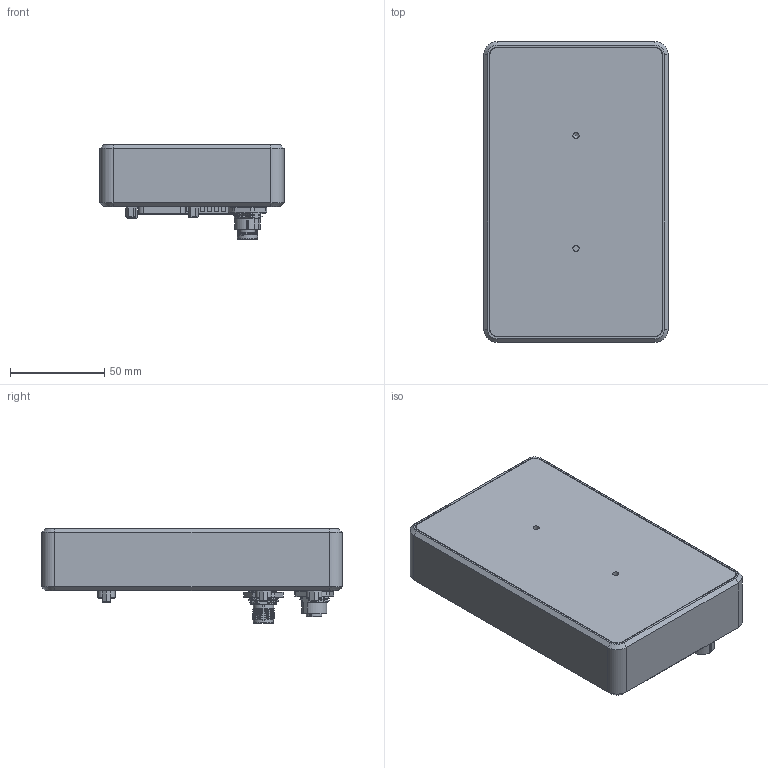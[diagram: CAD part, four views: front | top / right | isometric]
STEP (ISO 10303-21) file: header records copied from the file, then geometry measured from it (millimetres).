
FILE_DESCRIPTION(/* description */ (''),/* implementation_level */ '2;1');
FILE_NAME(/* name */ 'I:\Users\Alle\Inventor\_Projekte\254_B40.0 Irinos\Vereinfachte Modelle\Irinos SC-DIO D37.stp',/* time_stamp */ '2022-11-14T10:18:54+01:00',/* author */ ('PE'),/* organization */ (''),/* preprocessor_version */ 'ST-DEVELOPER v18.1',/* originating_system */ 'Autodesk Inventor 2021',/* authorisation */ '');
FILE_SCHEMA (('AUTOMOTIVE_DESIGN { 1 0 10303 214 3 1 1 }'));
Products named in the file (1): B40.0 DIO D37_vereinfacht
Bounding box: 98 x 160 x 50.3 mm (x, y, z)
Volume: 511417.4 mm3; surface area: 85030.1 mm2
Topology: 1 solids, 5 shells, 2579 faces, 6722 edges, 4354 vertices
Faces by surface type: plane 1110, cylinder 536, bspline 451, cone 253, torus 186, sphere 43
Full cylindrical faces by diameter (mm): 1 x5, 1.02 x37, 1.08 x37, 1.2 x30, 1.36 x1, 1.5 x4, 2.459 x14, 2.5 x34, 3 x2, 3.242 x4, 3.3 x2, 3.4 x4, 4.05 x2, 4.2 x7, 6.5 x4, 8.9 x1, 10.75 x1, 11.13 x1, 12.2 x1, 14.6 x2, 16.1 x2
Entity records: 116414 total; most frequent: CARTESIAN_POINT 52135, ORIENTED_EDGE 13354, DIRECTION 12162, EDGE_CURVE 6677, AXIS2_PLACEMENT_3D 4518, VERTEX_POINT 4354, LINE 3126, VECTOR 3126
